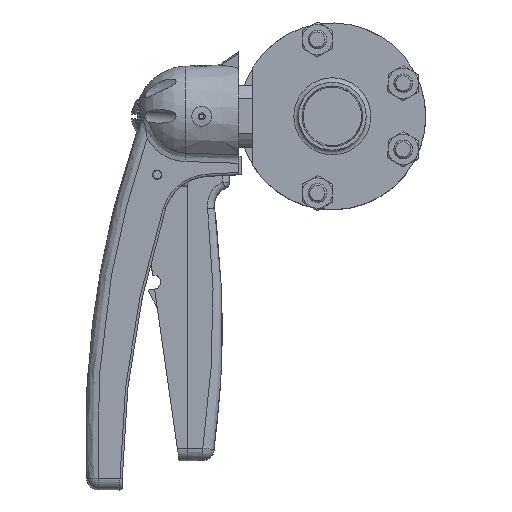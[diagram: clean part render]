
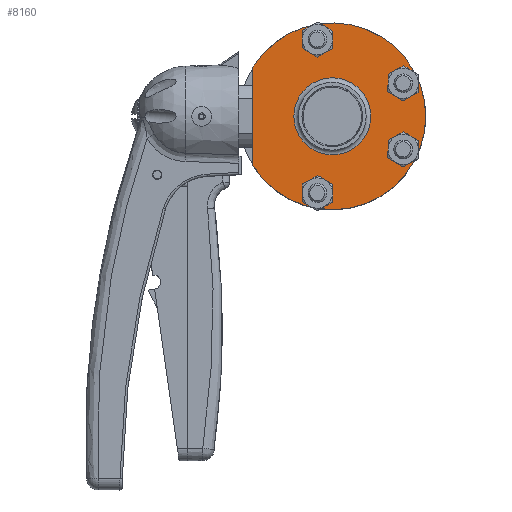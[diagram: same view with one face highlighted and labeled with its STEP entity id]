
A CAD part, top view. The second image highlights one B-rep face of the part: STEP entity #8160.
In plain terms, the highlighted planar face has unit normal (0, 0, 1) as drawn and (0, -1, 0) by its records, which use the part's own axes.
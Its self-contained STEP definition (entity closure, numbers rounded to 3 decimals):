
#915=FACE_BOUND('',#1686,.T.);
#916=FACE_BOUND('',#1687,.T.);
#917=FACE_BOUND('',#1688,.T.);
#918=FACE_BOUND('',#1689,.T.);
#919=FACE_BOUND('',#1690,.T.);
#963=PLANE('',#8839);
#1194=FACE_OUTER_BOUND('',#1685,.T.);
#1685=EDGE_LOOP('',(#5734,#5735));
#1686=EDGE_LOOP('',(#5736));
#1687=EDGE_LOOP('',(#5737));
#1688=EDGE_LOOP('',(#5738));
#1689=EDGE_LOOP('',(#5739));
#1690=EDGE_LOOP('',(#5740));
#2196=LINE('',#11752,#2772);
#2772=VECTOR('',#9666,10.);
#3344=CIRCLE('',#8814,4.25);
#3346=CIRCLE('',#8817,4.25);
#3348=CIRCLE('',#8820,4.25);
#3350=CIRCLE('',#8823,4.25);
#3358=CIRCLE('',#8838,16.5);
#3359=CIRCLE('',#8840,40.);
#3660=VERTEX_POINT('',#11728);
#3662=VERTEX_POINT('',#11734);
#3664=VERTEX_POINT('',#11740);
#3666=VERTEX_POINT('',#11746);
#3667=VERTEX_POINT('',#11750);
#3668=VERTEX_POINT('',#11751);
#3676=VERTEX_POINT('',#11778);
#4439=EDGE_CURVE('',#3660,#3660,#3344,.T.);
#4442=EDGE_CURVE('',#3662,#3662,#3346,.T.);
#4445=EDGE_CURVE('',#3664,#3664,#3348,.T.);
#4448=EDGE_CURVE('',#3666,#3666,#3350,.T.);
#4449=EDGE_CURVE('',#3667,#3668,#2196,.T.);
#4463=EDGE_CURVE('',#3676,#3676,#3358,.T.);
#4464=EDGE_CURVE('',#3667,#3668,#3359,.T.);
#5734=ORIENTED_EDGE('',*,*,#4449,.T.);
#5735=ORIENTED_EDGE('',*,*,#4464,.F.);
#5736=ORIENTED_EDGE('',*,*,#4439,.T.);
#5737=ORIENTED_EDGE('',*,*,#4442,.T.);
#5738=ORIENTED_EDGE('',*,*,#4445,.T.);
#5739=ORIENTED_EDGE('',*,*,#4448,.T.);
#5740=ORIENTED_EDGE('',*,*,#4463,.T.);
#8160=ADVANCED_FACE('',(#1194,#915,#916,#917,#918,#919),#963,.T.);
#8814=AXIS2_PLACEMENT_3D('',#11730,#9641,#9642);
#8817=AXIS2_PLACEMENT_3D('',#11736,#9648,#9649);
#8820=AXIS2_PLACEMENT_3D('',#11742,#9655,#9656);
#8823=AXIS2_PLACEMENT_3D('',#11748,#9662,#9663);
#8838=AXIS2_PLACEMENT_3D('',#11780,#9699,#9700);
#8839=AXIS2_PLACEMENT_3D('',#11781,#9701,#9702);
#8840=AXIS2_PLACEMENT_3D('',#11782,#9703,#9704);
#9641=DIRECTION('center_axis',(0.,1.,0.));
#9642=DIRECTION('ref_axis',(-1.,0.,0.));
#9648=DIRECTION('center_axis',(0.,1.,0.));
#9649=DIRECTION('ref_axis',(-1.,0.,0.));
#9655=DIRECTION('center_axis',(0.,1.,0.));
#9656=DIRECTION('ref_axis',(-1.,0.,0.));
#9662=DIRECTION('center_axis',(0.,1.,0.));
#9663=DIRECTION('ref_axis',(-1.,0.,0.));
#9666=DIRECTION('',(-1.,0.,0.));
#9699=DIRECTION('center_axis',(0.,1.,0.));
#9700=DIRECTION('ref_axis',(1.,0.,0.));
#9701=DIRECTION('center_axis',(0.,-1.,0.));
#9702=DIRECTION('ref_axis',(0.,0.,-1.));
#9703=DIRECTION('center_axis',(0.,1.,0.));
#9704=DIRECTION('ref_axis',(1.,0.,0.));
#11728=CARTESIAN_POINT('',(-9.908,-10.,-30.361));
#11730=CARTESIAN_POINT('Origin',(-14.158,-10.,-30.361));
#11734=CARTESIAN_POINT('',(37.135,-10.,6.392));
#11736=CARTESIAN_POINT('Origin',(32.885,-10.,6.392));
#11740=CARTESIAN_POINT('',(-28.635,-10.,6.392));
#11742=CARTESIAN_POINT('Origin',(-32.885,-10.,6.392));
#11746=CARTESIAN_POINT('',(18.408,-10.,-30.361));
#11748=CARTESIAN_POINT('Origin',(14.158,-10.,-30.361));
#11750=CARTESIAN_POINT('',(21.071,-10.,34.));
#11751=CARTESIAN_POINT('',(-21.071,-10.,34.));
#11752=CARTESIAN_POINT('',(-21.188,-10.,34.));
#11778=CARTESIAN_POINT('',(0.,-10.,-16.5));
#11780=CARTESIAN_POINT('Origin',(0.,-10.,0.));
#11781=CARTESIAN_POINT('Origin',(0.,-10.,40.));
#11782=CARTESIAN_POINT('Origin',(0.,-10.,0.));
